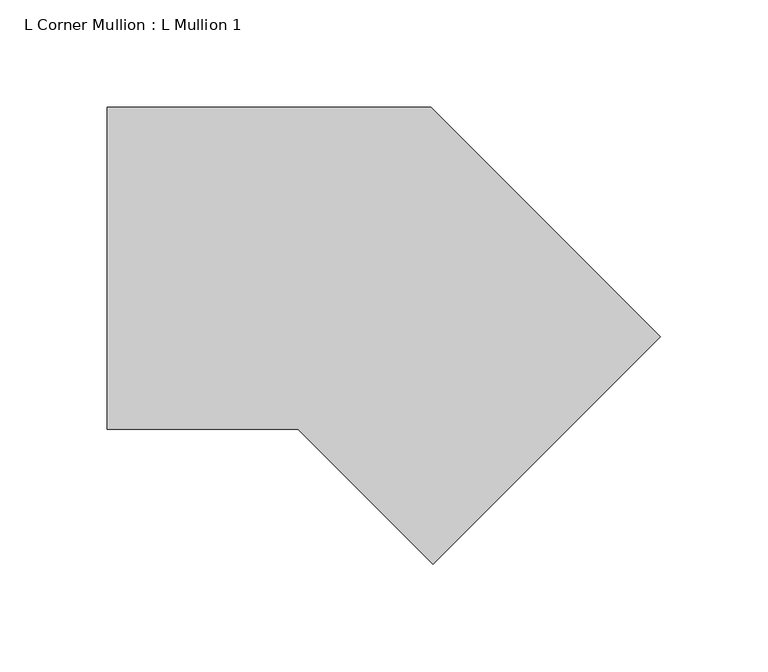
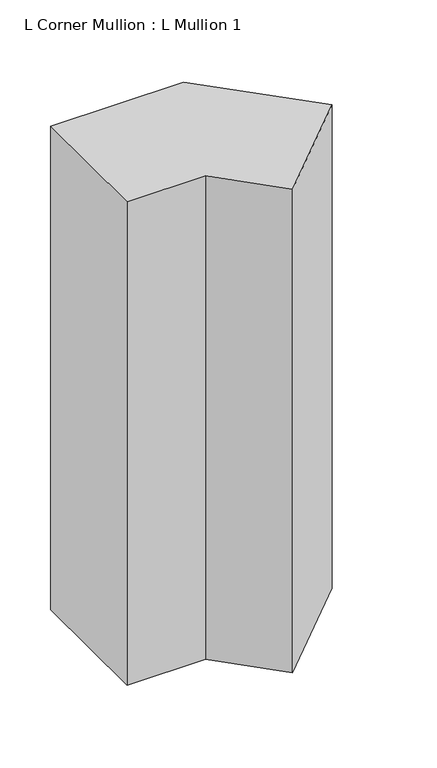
"""IFC4 building model written with IfcOpenShell, lengths in millimetres: member geometry, L Corner Mullion : L Mullion 1."""

from ifc_helpers import new_model, si_unit, frame, origin, place, context, project, spatial, polyline, outline, extrude, source, transform, mapped, element, save


def l_corner_mullion_l_mullion_1_2546fe3a(model_context):
    return source(origin(), model_context, "Body", "SweptSolid", [
        extrude(outline(polyline([(20.636039, -164.8858223), (-42.2497834, -102.0), (-131.1837662, -102.0), (-131.1837662, 48.0), (19.882251, 48.0), (126.7020561, -58.8198052), (20.636039, -164.8858223)])), frame((0.0, 0.0, -580.0), z_axis=(0.0, 0.0, 1.0), x_axis=(1.0, 0.0, 0.0)), (0.0, 0.0, 1.0), 580.0),
    ])


if __name__ == "__main__":
    model = new_model("IFC4")
    model_context = context("Model", 3, world=origin())
    ifc_project = project(units=[si_unit("LENGTHUNIT", "METRE", prefix="MILLI")], contexts=[model_context])
    site = spatial("IfcSite", under=ifc_project)
    building = spatial("IfcBuilding", under=site)
    placement = place(None, origin())
    l_corner_mullion_l_mullion_1_shape = l_corner_mullion_l_mullion_1_2546fe3a(model_context)
    element("IfcMember", 1, ObjectType="L Corner Mullion : L Mullion 1", at=placement, inside=building, context=model_context, shape_type="MappedRepresentation", body=[
        mapped(l_corner_mullion_l_mullion_1_shape, transform((0.0, 0.0, 0.0), x_axis=(1.0, 0.0, 0.0), y_axis=(0.0, 1.0, 0.0), z_axis=(0.0, 0.0, 1.0))),
    ])
    save(model, "model.ifc")
